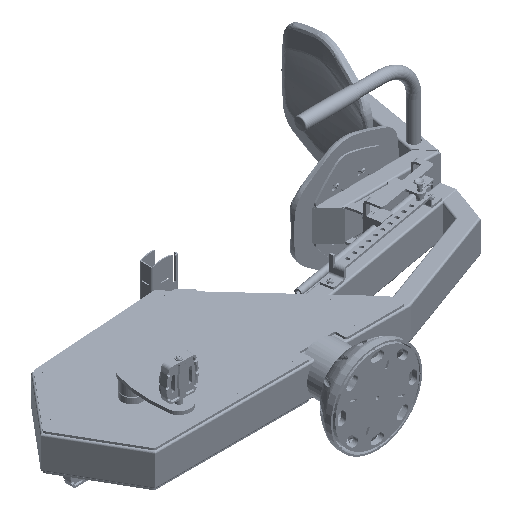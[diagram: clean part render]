
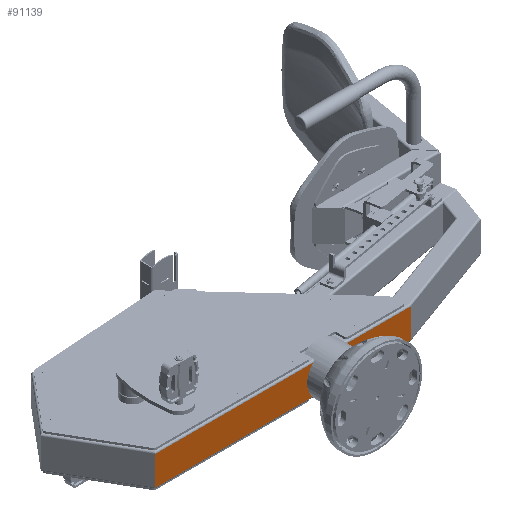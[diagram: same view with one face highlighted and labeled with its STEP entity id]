
A CAD part, isometric view. The second image highlights one B-rep face of the part: STEP entity #91139.
In plain terms, the highlighted planar face has unit normal (0, -1, 0).
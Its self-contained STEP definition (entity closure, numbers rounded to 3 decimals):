
#24227 = VERTEX_POINT ( 'NONE', #373566 ) ;
#26029 = PLANE ( 'NONE',  #65022 ) ;
#30798 = EDGE_CURVE ( 'NONE', #24227, #371302, #97046, .T. ) ;
#36340 = ORIENTED_EDGE ( 'NONE', *, *, #342482, .F. ) ;
#52141 = LINE ( 'NONE', #84580, #286846 ) ;
#59479 = EDGE_CURVE ( 'NONE', #335141, #368587, #80574, .T. ) ;
#65022 = AXIS2_PLACEMENT_3D ( 'NONE', #260873, #174850, #369755 ) ;
#67432 = ORIENTED_EDGE ( 'NONE', *, *, #30798, .F. ) ;
#68389 = DIRECTION ( 'NONE',  ( -1., 0., 0. ) ) ;
#80574 = LINE ( 'NONE', #137884, #283023 ) ;
#84580 = CARTESIAN_POINT ( 'NONE',  ( -787., -25., -45. ) ) ;
#91139 = ADVANCED_FACE ( 'NONE', ( #140663 ), #26029, .F. ) ;
#97046 = LINE ( 'NONE', #213508, #257520 ) ;
#112983 = DIRECTION ( 'NONE',  ( -1., 0., 0. ) ) ;
#137884 = CARTESIAN_POINT ( 'NONE',  ( 0., -25., 45. ) ) ;
#137946 = DIRECTION ( 'NONE',  ( 0., 0., -1. ) ) ;
#140663 = FACE_OUTER_BOUND ( 'NONE', #171735, .T. ) ;
#171735 = EDGE_LOOP ( 'NONE', ( #67432, #36340, #343122, #331296 ) ) ;
#174850 = DIRECTION ( 'NONE',  ( 0., 1., 0. ) ) ;
#202717 = CARTESIAN_POINT ( 'NONE',  ( 0., -25., -45. ) ) ;
#213508 = CARTESIAN_POINT ( 'NONE',  ( 0., -25., -45. ) ) ;
#247279 = EDGE_CURVE ( 'NONE', #368587, #371302, #52141, .T. ) ;
#257520 = VECTOR ( 'NONE', #68389, 1000. ) ;
#260873 = CARTESIAN_POINT ( 'NONE',  ( 0., -25., -45. ) ) ;
#274347 = CARTESIAN_POINT ( 'NONE',  ( -787., -25., -45. ) ) ;
#283023 = VECTOR ( 'NONE', #112983, 1000. ) ;
#286846 = VECTOR ( 'NONE', #371010, 1000. ) ;
#290646 = CARTESIAN_POINT ( 'NONE',  ( -787., -25., 45. ) ) ;
#293639 = VECTOR ( 'NONE', #137946, 1000. ) ;
#313568 = LINE ( 'NONE', #202717, #293639 ) ;
#331296 = ORIENTED_EDGE ( 'NONE', *, *, #247279, .T. ) ;
#335141 = VERTEX_POINT ( 'NONE', #377649 ) ;
#342482 = EDGE_CURVE ( 'NONE', #335141, #24227, #313568, .T. ) ;
#343122 = ORIENTED_EDGE ( 'NONE', *, *, #59479, .T. ) ;
#368587 = VERTEX_POINT ( 'NONE', #290646 ) ;
#369755 = DIRECTION ( 'NONE',  ( 0., 0., 1. ) ) ;
#371010 = DIRECTION ( 'NONE',  ( 0., 0., -1. ) ) ;
#371302 = VERTEX_POINT ( 'NONE', #274347 ) ;
#373566 = CARTESIAN_POINT ( 'NONE',  ( 0., -25., -45. ) ) ;
#377649 = CARTESIAN_POINT ( 'NONE',  ( 0., -25., 45. ) ) ;
